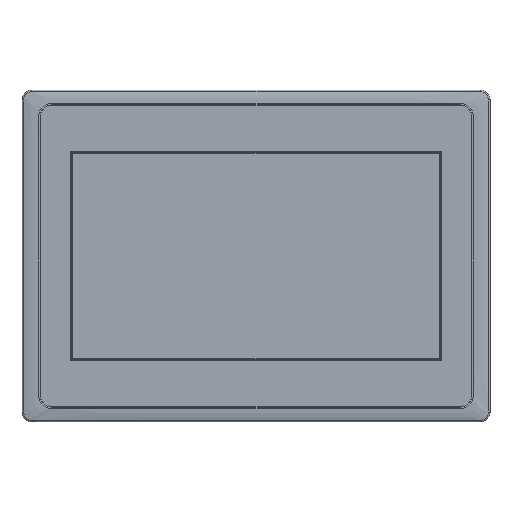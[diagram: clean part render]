
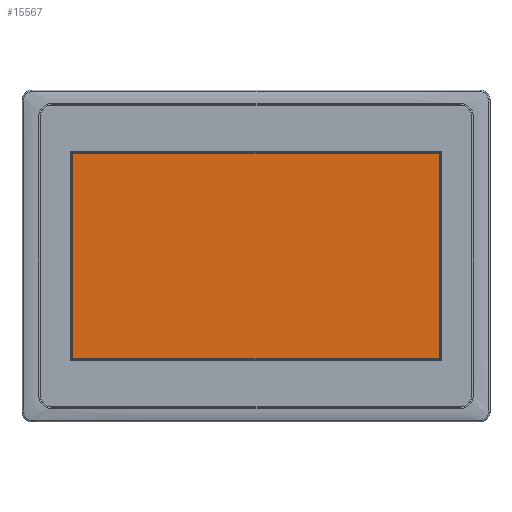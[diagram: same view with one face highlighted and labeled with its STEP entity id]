
A CAD part, top view. The second image highlights one B-rep face of the part: STEP entity #15567.
In plain terms, the highlighted planar face has unit normal (0, 0, 1).
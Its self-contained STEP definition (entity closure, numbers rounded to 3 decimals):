
#711 = CARTESIAN_POINT ( 'NONE',  ( -110.56, 61.84, 1.9 ) ) ;
#1319 = CARTESIAN_POINT ( 'NONE',  ( -110.56, 61.84, 1.9 ) ) ;
#4034 = EDGE_CURVE ( 'NONE', #7251, #13767, #16060, .T. ) ;
#4771 = EDGE_CURVE ( 'NONE', #19036, #16456, #6934, .T. ) ;
#4952 = ORIENTED_EDGE ( 'NONE', *, *, #4771, .T. ) ;
#5810 = FACE_OUTER_BOUND ( 'NONE', #19384, .T. ) ;
#6069 = DIRECTION ( 'NONE',  ( -1., 0., 0. ) ) ;
#6186 = CARTESIAN_POINT ( 'NONE',  ( -1., 0., 1.9 ) ) ;
#6432 = PLANE ( 'NONE',  #12805 ) ;
#6472 = VECTOR ( 'NONE', #30726, 1000. ) ;
#6934 = LINE ( 'NONE', #711, #6472 ) ;
#7251 = VERTEX_POINT ( 'NONE', #11140 ) ;
#8306 = CARTESIAN_POINT ( 'NONE',  ( -110.56, -61.84, 1.9 ) ) ;
#9199 = DIRECTION ( 'NONE',  ( 0., 0., -1. ) ) ;
#9660 = CARTESIAN_POINT ( 'NONE',  ( 110.56, 61.84, 1.9 ) ) ;
#10938 = DIRECTION ( 'NONE',  ( 1., 0., 0. ) ) ;
#11122 = VECTOR ( 'NONE', #13865, 1000. ) ;
#11140 = CARTESIAN_POINT ( 'NONE',  ( -110.56, -61.84, 1.9 ) ) ;
#11386 = ORIENTED_EDGE ( 'NONE', *, *, #4034, .T. ) ;
#12805 = AXIS2_PLACEMENT_3D ( 'NONE', #6186, #9199, #6069 ) ;
#13767 = VERTEX_POINT ( 'NONE', #32334 ) ;
#13820 = EDGE_CURVE ( 'NONE', #16456, #7251, #26671, .T. ) ;
#13865 = DIRECTION ( 'NONE',  ( 0., -1., 0. ) ) ;
#15469 = DIRECTION ( 'NONE',  ( 0., 1., 0. ) ) ;
#15567 = ADVANCED_FACE ( 'NONE', ( #5810 ), #6432, .F. ) ;
#16060 = LINE ( 'NONE', #8306, #25102 ) ;
#16456 = VERTEX_POINT ( 'NONE', #1319 ) ;
#18938 = EDGE_CURVE ( 'NONE', #13767, #19036, #34860, .T. ) ;
#19036 = VERTEX_POINT ( 'NONE', #9660 ) ;
#19384 = EDGE_LOOP ( 'NONE', ( #25740, #4952, #24151, #11386 ) ) ;
#20198 = VECTOR ( 'NONE', #15469, 1000. ) ;
#24151 = ORIENTED_EDGE ( 'NONE', *, *, #13820, .T. ) ;
#25102 = VECTOR ( 'NONE', #10938, 1000. ) ;
#25740 = ORIENTED_EDGE ( 'NONE', *, *, #18938, .T. ) ;
#26671 = LINE ( 'NONE', #32448, #11122 ) ;
#28985 = CARTESIAN_POINT ( 'NONE',  ( 110.56, -61.84, 1.9 ) ) ;
#30726 = DIRECTION ( 'NONE',  ( -1., 0., 0. ) ) ;
#32334 = CARTESIAN_POINT ( 'NONE',  ( 110.56, -61.84, 1.9 ) ) ;
#32448 = CARTESIAN_POINT ( 'NONE',  ( -110.56, -61.84, 1.9 ) ) ;
#34860 = LINE ( 'NONE', #28985, #20198 ) ;
